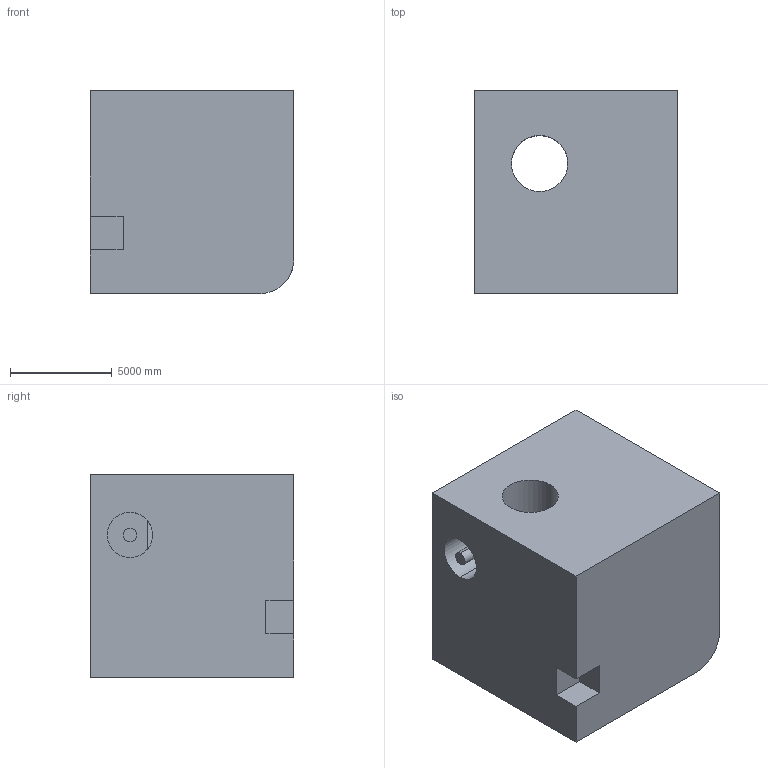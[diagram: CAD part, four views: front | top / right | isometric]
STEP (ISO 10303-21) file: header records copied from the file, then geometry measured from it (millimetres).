
FILE_DESCRIPTION (( 'STEP AP203' ), '1' );
FILE_NAME ('299.STEP', '2022-09-07T12:42:22', ( 'user' ), ( '' ), 'SwSTEP 2.0', 'SolidWorks 2021', '' );
FILE_SCHEMA (( 'CONFIG_CONTROL_DESIGN' ));
Length unit declared in the file: centimetre
Products named in the file (1): 299
Bounding box: 10000 x 10000 x 10000 mm (x, y, z)
Volume: 871002360562.4 mm3; surface area: 793467647.5 mm2
Topology: 1 solids, 1 shells, 25 faces, 63 edges, 42 vertices
Faces by surface type: plane 14, cylinder 11
Entity records: 1002 total; most frequent: CARTESIAN_POINT 294, DIRECTION 135, ORIENTED_EDGE 126, EDGE_CURVE 63, AXIS2_PLACEMENT_3D 49, VERTEX_POINT 42, VECTOR 37, LINE 37
